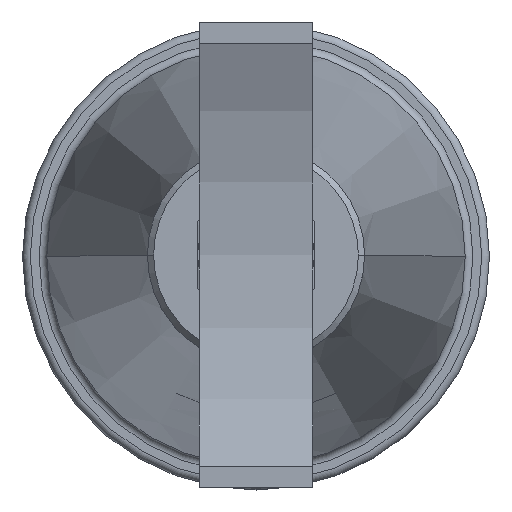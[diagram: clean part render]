
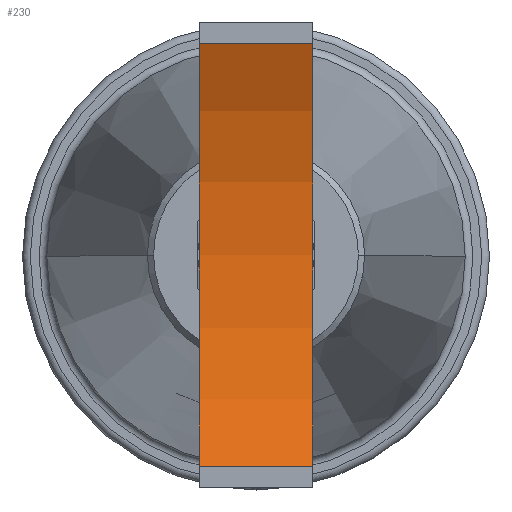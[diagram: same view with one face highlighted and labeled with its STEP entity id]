
A CAD part, top view. The second image highlights one B-rep face of the part: STEP entity #230.
In plain terms, the highlighted cylindrical face has radius 304.8 mm (diameter 609.6 mm), a partial arc.
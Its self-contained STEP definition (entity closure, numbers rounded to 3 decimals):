
#230=ADVANCED_FACE('',(#517),#518,.F.);
#517=FACE_OUTER_BOUND('',#899,.T.);
#518=CYLINDRICAL_SURFACE('',#900,304.8);
#899=EDGE_LOOP('',(#1356,#1357,#1358,#1359));
#900=AXIS2_PLACEMENT_3D('',#1360,#1361,#1362);
#1356=ORIENTED_EDGE('',*,*,#2251,.T.);
#1357=ORIENTED_EDGE('',*,*,#2252,.F.);
#1358=ORIENTED_EDGE('',*,*,#2253,.T.);
#1359=ORIENTED_EDGE('',*,*,#2248,.T.);
#1360=CARTESIAN_POINT('',(371.711,528.029,643.355));
#1361=DIRECTION('',(1.0,0.,0.));
#1362=DIRECTION('',(0.,1.0,0.));
#2248=EDGE_CURVE('',#2670,#2668,#2671,.T.);
#2251=EDGE_CURVE('',#2668,#2674,#2675,.T.);
#2252=EDGE_CURVE('',#2676,#2674,#2677,.T.);
#2253=EDGE_CURVE('',#2676,#2670,#2678,.T.);
#2668=VERTEX_POINT('',#3265);
#2670=VERTEX_POINT('',#3268);
#2671=LINE('',#3269,#3270);
#2674=VERTEX_POINT('',#3274);
#2675=CIRCLE('',#3275,304.8);
#2676=VERTEX_POINT('',#3276);
#2677=LINE('',#3277,#3278);
#2678=CIRCLE('',#3279,304.8);
#3265=CARTESIAN_POINT('',(444.711,392.076,370.555));
#3268=CARTESIAN_POINT('',(371.711,392.076,370.555));
#3269=CARTESIAN_POINT('',(371.711,392.076,370.555));
#3270=VECTOR('',#4716,1.0);
#3274=CARTESIAN_POINT('',(444.711,663.982,370.555));
#3275=AXIS2_PLACEMENT_3D('',#4718,#4719,#4720);
#3276=CARTESIAN_POINT('',(371.711,663.982,370.555));
#3277=CARTESIAN_POINT('',(371.711,663.982,370.555));
#3278=VECTOR('',#4721,1.0);
#3279=AXIS2_PLACEMENT_3D('',#4722,#4723,#4724);
#4716=DIRECTION('',(1.0,0.,0.));
#4718=CARTESIAN_POINT('',(444.711,528.029,643.355));
#4719=DIRECTION('',(1.0,0.,0.));
#4720=DIRECTION('',(0.,1.0,0.));
#4721=DIRECTION('',(1.0,0.,0.));
#4722=CARTESIAN_POINT('',(371.711,528.029,643.355));
#4723=DIRECTION('',(-1.0,0.,0.));
#4724=DIRECTION('',(0.,1.0,0.));
